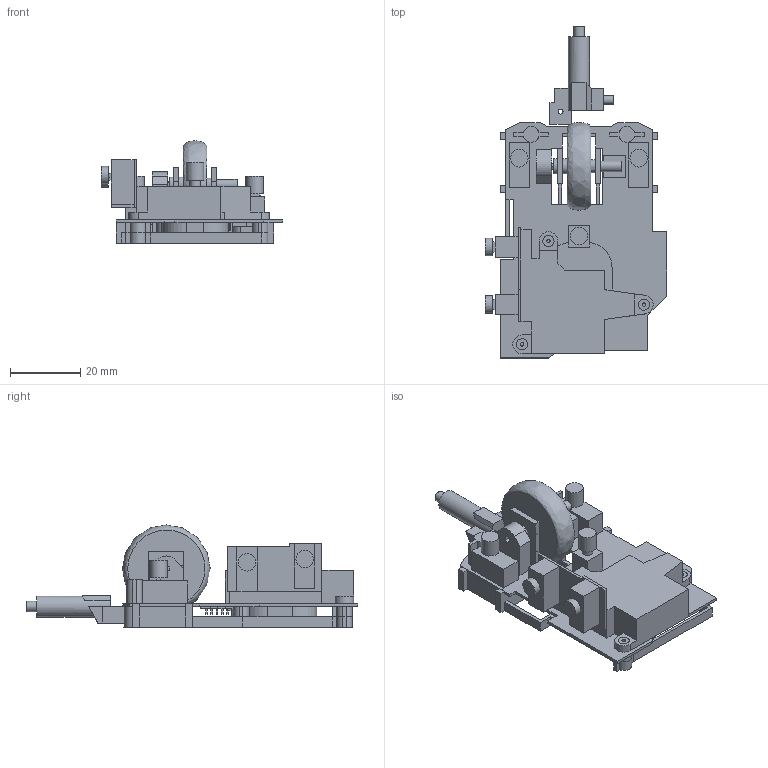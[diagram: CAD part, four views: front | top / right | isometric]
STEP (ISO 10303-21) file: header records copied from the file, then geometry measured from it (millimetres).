
FILE_DESCRIPTION(/* description */ ('','CAx-IF Rec.Pracs.---Representation and Presentation of Product Manufacturing Information (PMI)---4.0---2014-10-13'),/* implementation_level */ '2;1');
FILE_NAME(/* name */ 'haste2pcb.step',/* time_stamp */ '2024-12-19T02:49:58+09:00',/* author */ (''),/* organization */ (''),/* preprocessor_version */ 'ST-DEVELOPER v20',/* originating_system */ 'Autodesk Translation Framework v13.20.0.188',/* authorisation */ '');
FILE_SCHEMA (('AP242_MANAGED_MODEL_BASED_3D_ENGINEERING_MIM_LF { 1 0 10303 442 1 1 4 }'));
Length unit declared in the file: millimetre
Products named in the file (4): haste2pcb; haste2pcb_1; pcb; shell
Assembly tree (3 placements, depth 3):
  haste2pcb
    haste2pcb_1
      pcb
      shell
Bounding box: 51.7 x 94.6 x 29.2 mm (x, y, z)
Volume: 35309.5 mm3; surface area: 31536.6 mm2
Topology: 29 solids, 29 shells, 737 faces, 1851 edges, 1230 vertices
Faces by surface type: plane 635, cylinder 101, bspline 1
Full cylindrical faces by diameter (mm): 1 x3, 1.4 x1, 1.6 x2, 2 x2, 2.5 x1, 2.8 x1, 3 x7, 3.2 x12, 3.7 x1, 4.2 x2, 4.5 x12, 5 x5, 6 x1
Entity records: 22015 total; most frequent: CARTESIAN_POINT 3869, ORIENTED_EDGE 3702, DIRECTION 3555, EDGE_CURVE 1851, LINE 1633, VECTOR 1633, VERTEX_POINT 1230, AXIS2_PLACEMENT_3D 961
